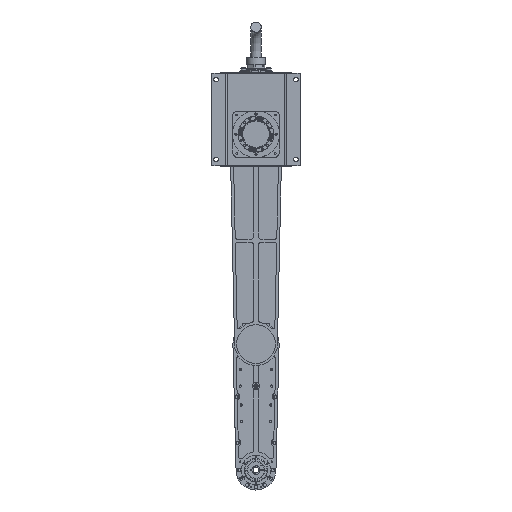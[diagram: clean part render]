
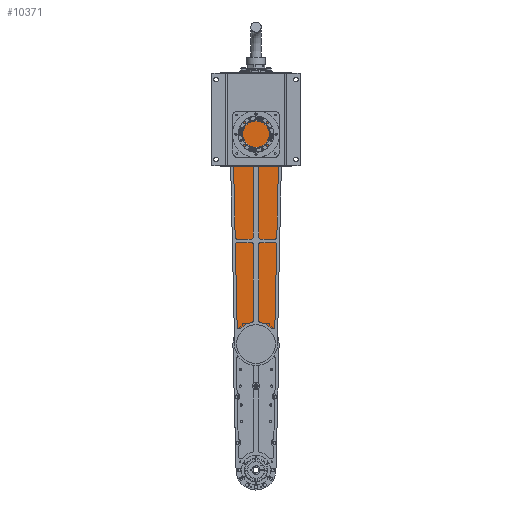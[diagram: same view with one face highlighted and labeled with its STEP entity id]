
A CAD part, front view. The second image highlights one B-rep face of the part: STEP entity #10371.
In plain terms, the highlighted planar face has unit normal (0, 1, 0).
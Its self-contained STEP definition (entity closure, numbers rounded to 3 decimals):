
#560 = DIRECTION ( 'NONE',  ( 0., -1., 0. ) ) ;
#748 = EDGE_CURVE ( 'NONE', #37803, #17141, #18692, .T. ) ;
#990 = LINE ( 'NONE', #15438, #44831 ) ;
#1912 = VERTEX_POINT ( 'NONE', #19668 ) ;
#1922 = CARTESIAN_POINT ( 'NONE',  ( -61.985, 227.9, 73.636 ) ) ;
#2411 = ORIENTED_EDGE ( 'NONE', *, *, #48787, .T. ) ;
#2569 = ORIENTED_EDGE ( 'NONE', *, *, #14340, .T. ) ;
#2746 = DIRECTION ( 'NONE',  ( 0., 1., 0. ) ) ;
#2884 = ORIENTED_EDGE ( 'NONE', *, *, #4724, .T. ) ;
#2950 = VERTEX_POINT ( 'NONE', #21407 ) ;
#3391 = DIRECTION ( 'NONE',  ( 0., 1., 0. ) ) ;
#4344 = CARTESIAN_POINT ( 'NONE',  ( 0., 227.9, -425. ) ) ;
#4646 = DIRECTION ( 'NONE',  ( 0., 1., 0. ) ) ;
#4724 = EDGE_CURVE ( 'NONE', #11534, #17742, #15115, .T. ) ;
#4759 = ORIENTED_EDGE ( 'NONE', *, *, #39844, .T. ) ;
#7149 = CARTESIAN_POINT ( 'NONE',  ( 50.988, 227.9, -426.122 ) ) ;
#7384 = CARTESIAN_POINT ( 'NONE',  ( 0.25, 227.9, -369.001 ) ) ;
#7629 = CARTESIAN_POINT ( 'NONE',  ( 0., 227.9, -425. ) ) ;
#7721 = DIRECTION ( 'NONE',  ( -0.022, 0., 1. ) ) ;
#7993 = AXIS2_PLACEMENT_3D ( 'NONE', #25968, #560, #30248 ) ;
#8147 = LINE ( 'NONE', #28974, #29380 ) ;
#8633 = DIRECTION ( 'NONE',  ( -1., 0., 0. ) ) ;
#9745 = VERTEX_POINT ( 'NONE', #7149 ) ;
#10325 = DIRECTION ( 'NONE',  ( 0., -1., 0. ) ) ;
#10371 = ADVANCED_FACE ( 'NONE', ( #16528, #49049 ), #24302, .T. ) ;
#10639 = CARTESIAN_POINT ( 'NONE',  ( -50.988, 227.9, -426.122 ) ) ;
#11189 = EDGE_CURVE ( 'NONE', #41730, #2950, #13142, .T. ) ;
#11534 = VERTEX_POINT ( 'NONE', #7384 ) ;
#11911 = DIRECTION ( 'NONE',  ( 0., 0., -1. ) ) ;
#13142 = CIRCLE ( 'NONE', #7993, 47. ) ;
#14340 = EDGE_CURVE ( 'NONE', #17742, #1912, #990, .T. ) ;
#14967 = DIRECTION ( 'NONE',  ( 0., 0., -1. ) ) ;
#15111 = CIRCLE ( 'NONE', #23000, 51. ) ;
#15115 = LINE ( 'NONE', #48642, #36339 ) ;
#15438 = CARTESIAN_POINT ( 'NONE',  ( -0.25, 227.9, 75. ) ) ;
#16528 = FACE_BOUND ( 'NONE', #49798, .T. ) ;
#17039 = VERTEX_POINT ( 'NONE', #36104 ) ;
#17141 = VERTEX_POINT ( 'NONE', #36673 ) ;
#17551 = LINE ( 'NONE', #50014, #37508 ) ;
#17742 = VERTEX_POINT ( 'NONE', #18495 ) ;
#18495 = CARTESIAN_POINT ( 'NONE',  ( -0.25, 227.9, -369.001 ) ) ;
#18502 = ORIENTED_EDGE ( 'NONE', *, *, #21092, .T. ) ;
#18692 = CIRCLE ( 'NONE', #52815, 62. ) ;
#19658 = CARTESIAN_POINT ( 'NONE',  ( -47., 227.9, -425. ) ) ;
#19668 = CARTESIAN_POINT ( 'NONE',  ( -0.25, 227.9, -378.001 ) ) ;
#21092 = EDGE_CURVE ( 'NONE', #1912, #41730, #44680, .T. ) ;
#21407 = CARTESIAN_POINT ( 'NONE',  ( 47., 227.9, -425. ) ) ;
#22258 = CARTESIAN_POINT ( 'NONE',  ( 0., 227.9, 75. ) ) ;
#22853 = AXIS2_PLACEMENT_3D ( 'NONE', #35739, #10325, #40022 ) ;
#23000 = AXIS2_PLACEMENT_3D ( 'NONE', #30085, #4646, #34348 ) ;
#23819 = DIRECTION ( 'NONE',  ( -0.022, 0., -1. ) ) ;
#24302 = PLANE ( 'NONE',  #39606 ) ;
#24986 = EDGE_CURVE ( 'NONE', #2950, #17039, #43662, .T. ) ;
#25305 = VERTEX_POINT ( 'NONE', #10639 ) ;
#25600 = EDGE_CURVE ( 'NONE', #9745, #37160, #15111, .T. ) ;
#25968 = CARTESIAN_POINT ( 'NONE',  ( 0., 227.9, -425. ) ) ;
#26000 = ORIENTED_EDGE ( 'NONE', *, *, #47813, .T. ) ;
#27076 = ORIENTED_EDGE ( 'NONE', *, *, #43730, .T. ) ;
#28564 = DIRECTION ( 'NONE',  ( 0., 0., 1. ) ) ;
#28974 = CARTESIAN_POINT ( 'NONE',  ( 0.25, 227.9, 75. ) ) ;
#29380 = VECTOR ( 'NONE', #33218, 1000. ) ;
#29727 = ORIENTED_EDGE ( 'NONE', *, *, #11189, .T. ) ;
#29754 = LINE ( 'NONE', #49212, #39708 ) ;
#30085 = CARTESIAN_POINT ( 'NONE',  ( 0., 227.9, -425. ) ) ;
#30248 = DIRECTION ( 'NONE',  ( -1., 0., 0. ) ) ;
#30854 = AXIS2_PLACEMENT_3D ( 'NONE', #7629, #37339, #11911 ) ;
#32485 = DIRECTION ( 'NONE',  ( 0., 0., -1. ) ) ;
#32818 = EDGE_LOOP ( 'NONE', ( #42050, #4759, #47965, #26000, #27076 ) ) ;
#33218 = DIRECTION ( 'NONE',  ( 0., 0., 1. ) ) ;
#33562 = CARTESIAN_POINT ( 'NONE',  ( 0., 227.9, -476. ) ) ;
#34043 = DIRECTION ( 'NONE',  ( 0., -1., 0. ) ) ;
#34348 = DIRECTION ( 'NONE',  ( 0., 0., -1. ) ) ;
#35739 = CARTESIAN_POINT ( 'NONE',  ( 0., 227.9, -425. ) ) ;
#36104 = CARTESIAN_POINT ( 'NONE',  ( 0.25, 227.9, -378.001 ) ) ;
#36339 = VECTOR ( 'NONE', #52894, 1000. ) ;
#36673 = CARTESIAN_POINT ( 'NONE',  ( 61.985, 227.9, 73.636 ) ) ;
#37160 = VERTEX_POINT ( 'NONE', #33562 ) ;
#37339 = DIRECTION ( 'NONE',  ( 0., 1., 0. ) ) ;
#37508 = VECTOR ( 'NONE', #7721, 1000. ) ;
#37803 = VERTEX_POINT ( 'NONE', #1922 ) ;
#39335 = AXIS2_PLACEMENT_3D ( 'NONE', #4344, #34043, #8633 ) ;
#39440 = CIRCLE ( 'NONE', #30854, 51. ) ;
#39606 = AXIS2_PLACEMENT_3D ( 'NONE', #45439, #2746, #28564 ) ;
#39708 = VECTOR ( 'NONE', #23819, 1000. ) ;
#39844 = EDGE_CURVE ( 'NONE', #17141, #9745, #29754, .T. ) ;
#40022 = DIRECTION ( 'NONE',  ( -1., 0., 0. ) ) ;
#41730 = VERTEX_POINT ( 'NONE', #19658 ) ;
#42050 = ORIENTED_EDGE ( 'NONE', *, *, #748, .T. ) ;
#42175 = ORIENTED_EDGE ( 'NONE', *, *, #24986, .T. ) ;
#43662 = CIRCLE ( 'NONE', #39335, 47. ) ;
#43730 = EDGE_CURVE ( 'NONE', #25305, #37803, #17551, .T. ) ;
#44680 = CIRCLE ( 'NONE', #22853, 47. ) ;
#44831 = VECTOR ( 'NONE', #32485, 1000. ) ;
#45439 = CARTESIAN_POINT ( 'NONE',  ( 0., 227.9, 75. ) ) ;
#47813 = EDGE_CURVE ( 'NONE', #37160, #25305, #39440, .T. ) ;
#47965 = ORIENTED_EDGE ( 'NONE', *, *, #25600, .T. ) ;
#48642 = CARTESIAN_POINT ( 'NONE',  ( 0., 227.9, -369.001 ) ) ;
#48787 = EDGE_CURVE ( 'NONE', #17039, #11534, #8147, .T. ) ;
#49049 = FACE_OUTER_BOUND ( 'NONE', #32818, .T. ) ;
#49212 = CARTESIAN_POINT ( 'NONE',  ( 61.985, 227.9, 73.636 ) ) ;
#49798 = EDGE_LOOP ( 'NONE', ( #2884, #2569, #18502, #29727, #42175, #2411 ) ) ;
#50014 = CARTESIAN_POINT ( 'NONE',  ( -50.988, 227.9, -426.122 ) ) ;
#52815 = AXIS2_PLACEMENT_3D ( 'NONE', #22258, #3391, #14967 ) ;
#52894 = DIRECTION ( 'NONE',  ( -1., 0., 0. ) ) ;
